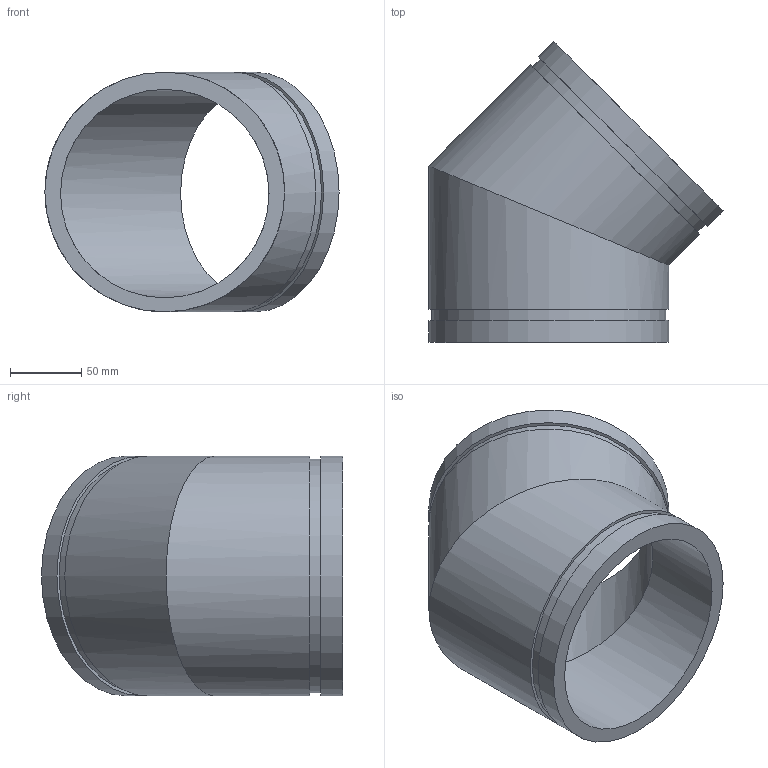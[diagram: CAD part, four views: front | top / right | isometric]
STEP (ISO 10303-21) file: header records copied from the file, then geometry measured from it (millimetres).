
FILE_DESCRIPTION(/* description */ ('VIC 45 DEG. EXTRA HEAVY ELBOW No 63-ES','CAx-IF Rec.Pracs.---Representation and Presentation of Product Manufacturing Information (PMI)---4.0---2014-10-13'),/* implementation_level */ '2;1');
FILE_NAME(/* name */ 'C:\Users\kkamble\AppData\Roaming\Autodesk\ApplicationPlugins\Back Up\Victaulic_IPS-EndSeal_Elbow 45 Deg LR_No 63-ES (ESG)\Victaulic_IPS-EndSeal_Elbow 45 Deg LR_No 63-ES (ESG)_6 (150).stp',/* time_stamp */ '2020-08-04T18:51:36+05:00',/* author */ ('cgray'),/* organization */ ('Victaulic'),/* preprocessor_version */ 'ST-DEVELOPER v17.2',/* originating_system */ 'Autodesk Inventor 2019',/* authorisation */ '');
FILE_SCHEMA (('AP242_MANAGED_MODEL_BASED_3D_ENGINEERING_MIM_LF { 1 0 10303 442 1 1 4 }'));
Length unit declared in the file: inch
Products named in the file (1): 63-ES-06.0
Bounding box: 206.49 x 211.26 x 168.28 mm (x, y, z)
Volume: 946669 mm3; surface area: 190872 mm2
Topology: 1 solids, 1 shells, 14 faces, 30 edges, 22 vertices
Faces by surface type: cylinder 8, plane 6
Full cylindrical faces by diameter (mm): 146.329 x2, 163.957 x2, 168.275 x4
Entity records: 554 total; most frequent: DIRECTION 108, CARTESIAN_POINT 84, ORIENTED_EDGE 60, AXIS2_PLACEMENT_3D 50, EDGE_CURVE 30, VERTEX_POINT 22, EDGE_LOOP 20, CIRCLE 16
